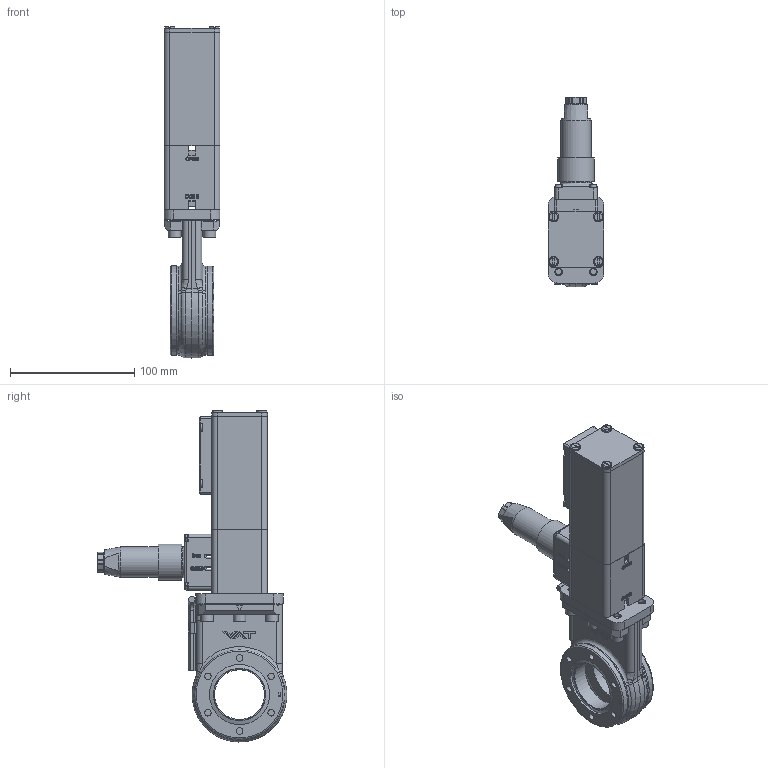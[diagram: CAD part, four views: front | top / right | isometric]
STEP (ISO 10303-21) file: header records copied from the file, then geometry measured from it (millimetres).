
FILE_DESCRIPTION(/* description */ (''),/* implementation_level */ '2;1');
FILE_NAME(/* name */ '1396898000_203',/* time_stamp */ '2009-09-08T12:01:51+02:00',/* author */ (''),/* organization */ (''),/* preprocessor_version */ 'ST-DEVELOPER v11',/* originating_system */ 'UGS - NX 5.0',/* authorisation */ '');
FILE_SCHEMA (('CONFIG_CONTROL_DESIGN'));
Length unit declared in the file: millimetre
Products named in the file (22): 63150-01; 63172-01; 69852-01; n-8504-002; 69672-01; N-6016-078.1; n-6024-526; 101400-01.2; 252080.1; 252066.1; 66481-01.2; 70613-01.2; 92412-01.2; 63152-01.4; 228772.1; 69968-01.1; 73280-01_1.1; 65209-01.2; 318865; 63170-r1; 68340-r1.6; 338877
Assembly tree (38 placements, depth 5):
  338877
    65209-01.2
    73280-01_1.1
    69968-01.1
    228772.1  x6
    63152-01.4
    68340-r1.6
      69852-01
      63172-01
      63170-r1
        318865
          63150-01  x2
      92412-01.2
    92412-01.2  x2
    70613-01.2
    66481-01.2
    252066.1  x4
    252080.1
    101400-01.2
    n-6024-526  x4
    N-6016-078.1  x4
    69672-01
    n-8504-002
Bounding box: 45 x 152.55 x 266.97 mm (x, y, z)
Volume: 320516.1 mm3; surface area: 177812.5 mm2
Topology: 54 solids, 54 shells, 1487 faces, 3667 edges, 2440 vertices
Faces by surface type: plane 885, cylinder 363, cone 74, bspline 66, extrusion 61, torus 34, sphere 4
Full cylindrical faces by diameter (mm): 1.95 x4, 2 x2, 2.25 x4, 2.46 x4, 2.5 x12, 3 x16, 3.3 x4, 3.4 x6, 4 x8, 4.15 x4, 4.479 x4, 4.65 x4, 4.96 x6, 5 x6, 5.2 x18, 5.4 x4, 5.6 x8, 5.95 x2, 6 x26, 6.2 x10, 6.95 x2, 8.1 x4, 8.806 x2, 9.85 x1, 10 x7, 10.219 x2, 13.3 x1, 13.85 x1, 14.9 x1, 15 x1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
Entity records: 43627 total; most frequent: CARTESIAN_POINT 13247, ORIENTED_EDGE 5674, DIRECTION 5162, EDGE_CURVE 2837, VERTEX_POINT 2010, AXIS2_PLACEMENT_3D 1813, EDGE_LOOP 1597, VECTOR 1536
